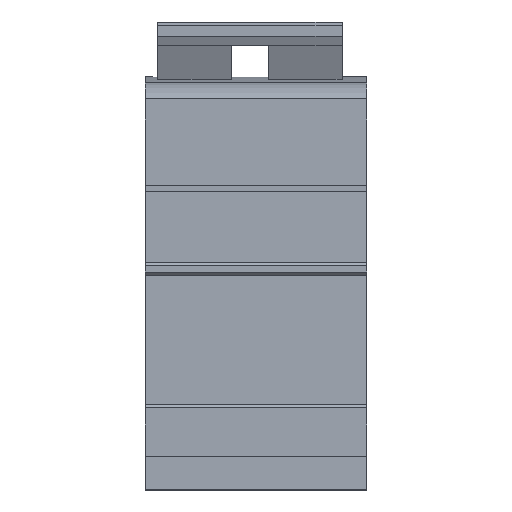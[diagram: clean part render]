
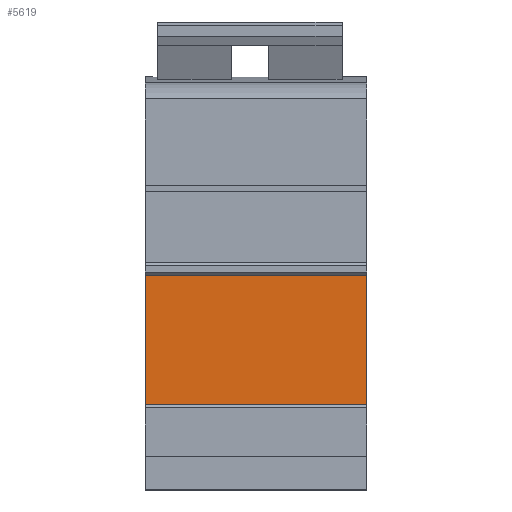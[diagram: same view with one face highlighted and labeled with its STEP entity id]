
A CAD part, front view. The second image highlights one B-rep face of the part: STEP entity #5619.
In plain terms, the highlighted planar face has unit normal (0, -1, 0).
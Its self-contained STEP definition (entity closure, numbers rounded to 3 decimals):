
#337=LINE('',#9347,#828);
#365=LINE('',#9692,#856);
#409=LINE('',#9783,#900);
#410=LINE('',#9785,#901);
#828=VECTOR('',#7047,10.);
#856=VECTOR('',#7333,10.);
#900=VECTOR('',#7389,10.);
#901=VECTOR('',#7392,10.);
#1524=FACE_OUTER_BOUND('',#1954,.T.);
#1954=EDGE_LOOP('',(#4506,#4507,#4508,#4509));
#2611=VERTEX_POINT('',#9344);
#2612=VERTEX_POINT('',#9346);
#2685=VERTEX_POINT('',#9689);
#2686=VERTEX_POINT('',#9691);
#3254=EDGE_CURVE('',#2611,#2612,#337,.T.);
#3350=EDGE_CURVE('',#2686,#2685,#365,.T.);
#3397=EDGE_CURVE('',#2685,#2612,#409,.T.);
#3398=EDGE_CURVE('',#2686,#2611,#410,.T.);
#4506=ORIENTED_EDGE('',*,*,#3350,.T.);
#4507=ORIENTED_EDGE('',*,*,#3397,.T.);
#4508=ORIENTED_EDGE('',*,*,#3254,.F.);
#4509=ORIENTED_EDGE('',*,*,#3398,.F.);
#5282=PLANE('',#6157);
#5619=ADVANCED_FACE('',(#1524),#5282,.T.);
#6157=AXIS2_PLACEMENT_3D('',#9784,#7390,#7391);
#7047=DIRECTION('',(0.,0.,-1.));
#7333=DIRECTION('',(0.,0.,-1.));
#7389=DIRECTION('',(1.,0.,0.));
#7390=DIRECTION('center_axis',(0.,-1.,0.));
#7391=DIRECTION('ref_axis',(0.,0.,-1.));
#7392=DIRECTION('',(1.,0.,0.));
#9344=CARTESIAN_POINT('',(36.,-45.21,5.279));
#9346=CARTESIAN_POINT('',(36.,-45.21,-15.833));
#9347=CARTESIAN_POINT('',(36.,-45.21,5.279));
#9689=CARTESIAN_POINT('',(0.,-45.21,-15.833));
#9691=CARTESIAN_POINT('',(0.,-45.21,5.279));
#9692=CARTESIAN_POINT('',(0.,-45.21,5.279));
#9783=CARTESIAN_POINT('',(0.,-45.21,-15.833));
#9784=CARTESIAN_POINT('Origin',(0.,-45.21,5.279));
#9785=CARTESIAN_POINT('',(0.,-45.21,5.279));
